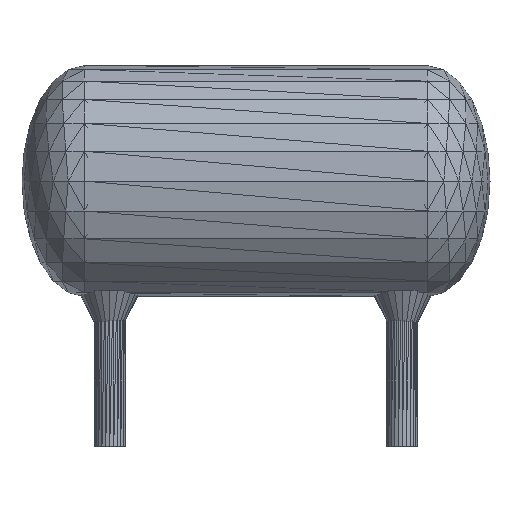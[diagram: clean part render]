
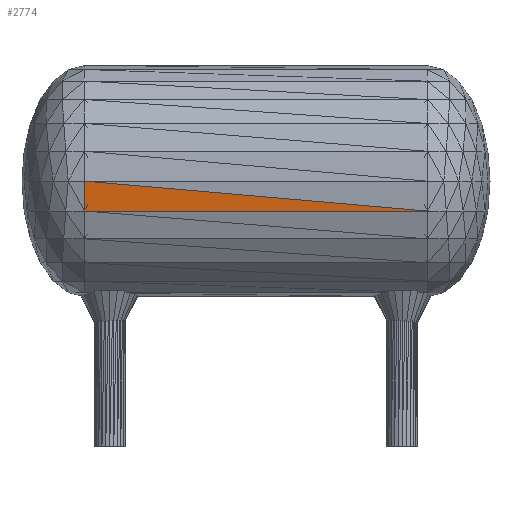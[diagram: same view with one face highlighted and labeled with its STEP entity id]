
A CAD part, front view. The second image highlights one B-rep face of the part: STEP entity #2774.
In plain terms, the highlighted planar face has unit normal (0, 0.995, 0.105).
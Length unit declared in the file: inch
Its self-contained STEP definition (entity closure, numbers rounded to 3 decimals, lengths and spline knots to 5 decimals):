
#2326=CARTESIAN_POINT('',(0.17599,-0.09153,0.1613));
#2327=VERTEX_POINT('',#2326);
#2509=CARTESIAN_POINT('',(-0.17602,-0.09153,0.16137));
#2510=VERTEX_POINT('',#2509);
#2544=CARTESIAN_POINT('',(0.17599,-0.09153,0.1613));
#2545=DIRECTION('',(-1.,0.,0.));
#2546=VECTOR('',#2545,0.352);
#2547=LINE('',#2544,#2546);
#2548=EDGE_CURVE('',#2327,#2510,#2547,.T.);
#2746=CARTESIAN_POINT('',(-0.17606,-0.09476,0.19202));
#2747=VERTEX_POINT('',#2746);
#2748=CARTESIAN_POINT('',(0.17599,-0.09153,0.1613));
#2749=DIRECTION('',(-0.996,-0.009,0.087));
#2750=VECTOR('',#2749,0.35335);
#2751=LINE('',#2748,#2750);
#2752=EDGE_CURVE('',#2327,#2747,#2751,.T.);
#2754=CARTESIAN_POINT('',(-0.17601,-0.09153,0.16137));
#2755=DIRECTION('',(0.,-0.105,0.994));
#2756=VECTOR('',#2755,0.03082);
#2757=LINE('',#2754,#2756);
#2758=EDGE_CURVE('',#2510,#2747,#2757,.T.);
#2764=CARTESIAN_POINT('',(-0.17595,-0.09153,0.16137));
#2765=DIRECTION('',(0.,0.994,0.105));
#2766=DIRECTION('',(1.,0.,0.));
#2767=AXIS2_PLACEMENT_3D('',#2764,#2765,#2766);
#2768=PLANE('',#2767);
#2769=ORIENTED_EDGE('',*,*,#2758,.T.);
#2770=ORIENTED_EDGE('',*,*,#2752,.F.);
#2771=ORIENTED_EDGE('',*,*,#2548,.T.);
#2772=EDGE_LOOP('',(#2769,#2770,#2771));
#2773=FACE_BOUND('',#2772,.T.);
#2774=ADVANCED_FACE('',(#2773),#2768,.T.);
